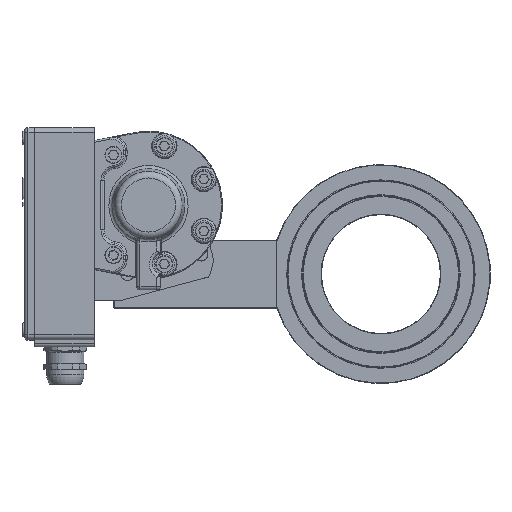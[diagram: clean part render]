
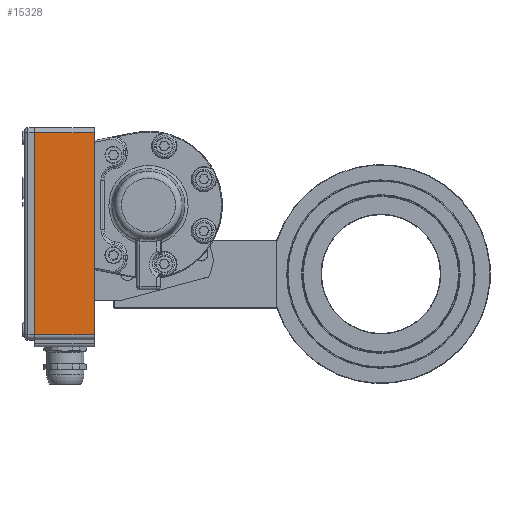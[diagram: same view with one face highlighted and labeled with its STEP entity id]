
A CAD part, top view. The second image highlights one B-rep face of the part: STEP entity #15328.
In plain terms, the highlighted planar face has unit normal (0, 0, 1) as drawn and (1, 0, 0) by its records, which use the part's own axes.
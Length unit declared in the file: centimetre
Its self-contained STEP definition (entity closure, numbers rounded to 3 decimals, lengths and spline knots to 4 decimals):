
#2489=VECTOR('',#18782,1.);
#2501=VECTOR('',#18834,1.);
#2522=VECTOR('',#18876,1.);
#2523=VECTOR('',#18878,1.);
#3548=LINE('',#31107,#2489);
#3560=LINE('',#31166,#2501);
#3581=LINE('',#31211,#2522);
#3582=LINE('',#31213,#2523);
#4435=PLANE('',#16593);
#5281=VERTEX_POINT('',#31106);
#5282=VERTEX_POINT('',#31108);
#5305=VERTEX_POINT('',#31165);
#5306=VERTEX_POINT('',#31167);
#7465=EDGE_CURVE('',#5282,#5281,#3548,.T.);
#7491=EDGE_CURVE('',#5306,#5305,#3560,.T.);
#7516=EDGE_CURVE('',#5282,#5305,#3581,.T.);
#7517=EDGE_CURVE('',#5306,#5281,#3582,.T.);
#10455=ORIENTED_EDGE('',*,*,#7516,.F.);
#10456=ORIENTED_EDGE('',*,*,#7465,.T.);
#10457=ORIENTED_EDGE('',*,*,#7517,.F.);
#10458=ORIENTED_EDGE('',*,*,#7491,.T.);
#13220=EDGE_LOOP('',(#10455,#10456,#10457,#10458));
#14379=FACE_BOUND('',#13220,.T.);
#15328=ADVANCED_FACE('',(#14379),#4435,.T.);
#16593=AXIS2_PLACEMENT_3D('',#31212,#18877,$);
#18782=DIRECTION('',(0.,1.,0.));
#18834=DIRECTION('',(0.,-1.,0.));
#18876=DIRECTION('',(0.,0.,1.));
#18877=DIRECTION('',(1.,0.,0.));
#18878=DIRECTION('',(0.,0.,-1.));
#31106=CARTESIAN_POINT('',(0.,12.2,0.));
#31107=CARTESIAN_POINT('',(0.,0.,0.));
#31108=CARTESIAN_POINT('',(0.,0.3,0.));
#31165=CARTESIAN_POINT('',(0.,0.3,3.5));
#31166=CARTESIAN_POINT('',(0.,0.,3.5));
#31167=CARTESIAN_POINT('',(0.,12.2,3.5));
#31211=CARTESIAN_POINT('',(0.,0.3,0.));
#31212=CARTESIAN_POINT('',(0.,6.25,0.));
#31213=CARTESIAN_POINT('',(0.,12.2,0.));
